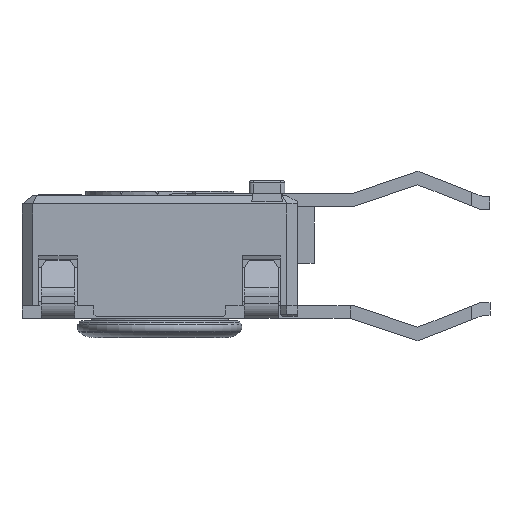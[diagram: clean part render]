
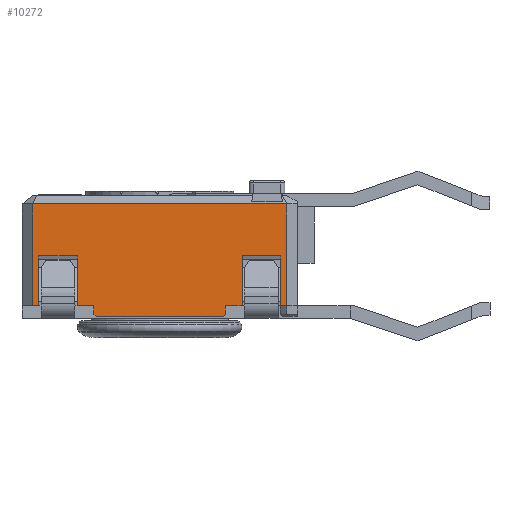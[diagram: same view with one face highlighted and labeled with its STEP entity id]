
A CAD part, left-side view. The second image highlights one B-rep face of the part: STEP entity #10272.
In plain terms, the highlighted planar face has unit normal (-1, 0, 0).
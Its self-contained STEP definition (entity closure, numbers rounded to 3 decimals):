
#1053=FACE_OUTER_BOUND('',#1607,.T.);
#1607=EDGE_LOOP('',(#8950,#8951,#8952,#8953,#8954,#8955,#8956,#8957,#8958,
#8959,#8960,#8961,#8962,#8963,#8964,#8965,#8966,#8967));
#2369=LINE('',#15667,#3563);
#2375=LINE('',#15680,#3569);
#2381=LINE('',#15691,#3575);
#2387=LINE('',#15702,#3581);
#2392=LINE('',#15712,#3586);
#2395=LINE('',#15718,#3589);
#2400=LINE('',#15727,#3594);
#2416=LINE('',#15757,#3610);
#2442=LINE('',#15817,#3636);
#2446=LINE('',#15822,#3640);
#2471=LINE('',#15862,#3665);
#2473=LINE('',#15867,#3667);
#2482=LINE('',#15885,#3676);
#2483=LINE('',#15887,#3677);
#2689=LINE('',#16393,#3883);
#2702=LINE('',#16417,#3896);
#2703=LINE('',#16419,#3897);
#2704=LINE('',#16421,#3898);
#3563=VECTOR('',#12607,10.);
#3569=VECTOR('',#12615,10.);
#3575=VECTOR('',#12621,10.);
#3581=VECTOR('',#12629,10.);
#3586=VECTOR('',#12636,10.);
#3589=VECTOR('',#12641,10.);
#3594=VECTOR('',#12648,10.);
#3610=VECTOR('',#12672,10.);
#3636=VECTOR('',#12726,10.);
#3640=VECTOR('',#12732,10.);
#3665=VECTOR('',#12767,10.);
#3667=VECTOR('',#12771,10.);
#3676=VECTOR('',#12792,10.);
#3677=VECTOR('',#12795,10.);
#3883=VECTOR('',#13269,10.);
#3896=VECTOR('',#13290,10.);
#3897=VECTOR('',#13293,10.);
#3898=VECTOR('',#13296,10.);
#4681=VERTEX_POINT('',#15664);
#4682=VERTEX_POINT('',#15666);
#4686=VERTEX_POINT('',#15676);
#4688=VERTEX_POINT('',#15679);
#4693=VERTEX_POINT('',#15689);
#4696=VERTEX_POINT('',#15699);
#4700=VERTEX_POINT('',#15709);
#4703=VERTEX_POINT('',#15716);
#4706=VERTEX_POINT('',#15725);
#4714=VERTEX_POINT('',#15744);
#4716=VERTEX_POINT('',#15756);
#4733=VERTEX_POINT('',#15809);
#4734=VERTEX_POINT('',#15813);
#4736=VERTEX_POINT('',#15816);
#4747=VERTEX_POINT('',#15864);
#4895=VERTEX_POINT('',#16390);
#4896=VERTEX_POINT('',#16392);
#4903=VERTEX_POINT('',#16415);
#5860=EDGE_CURVE('',#4682,#4681,#2369,.T.);
#5866=EDGE_CURVE('',#4688,#4686,#2375,.T.);
#5872=EDGE_CURVE('',#4681,#4693,#2381,.T.);
#5878=EDGE_CURVE('',#4686,#4696,#2387,.T.);
#5883=EDGE_CURVE('',#4696,#4700,#2392,.T.);
#5886=EDGE_CURVE('',#4700,#4703,#2395,.T.);
#5891=EDGE_CURVE('',#4703,#4706,#2400,.T.);
#5907=EDGE_CURVE('',#4716,#4682,#2416,.T.);
#5939=EDGE_CURVE('',#4736,#4734,#2442,.T.);
#5943=EDGE_CURVE('',#4734,#4716,#2446,.T.);
#5968=EDGE_CURVE('',#4736,#4733,#2471,.T.);
#5970=EDGE_CURVE('',#4693,#4747,#2473,.T.);
#5979=EDGE_CURVE('',#4706,#4714,#2482,.T.);
#5980=EDGE_CURVE('',#4733,#4714,#2483,.T.);
#6228=EDGE_CURVE('',#4895,#4896,#2689,.T.);
#6241=EDGE_CURVE('',#4903,#4747,#2702,.T.);
#6242=EDGE_CURVE('',#4903,#4896,#2703,.T.);
#6243=EDGE_CURVE('',#4895,#4688,#2704,.T.);
#8950=ORIENTED_EDGE('',*,*,#6241,.F.);
#8951=ORIENTED_EDGE('',*,*,#6242,.T.);
#8952=ORIENTED_EDGE('',*,*,#6228,.F.);
#8953=ORIENTED_EDGE('',*,*,#6243,.T.);
#8954=ORIENTED_EDGE('',*,*,#5866,.T.);
#8955=ORIENTED_EDGE('',*,*,#5878,.T.);
#8956=ORIENTED_EDGE('',*,*,#5883,.T.);
#8957=ORIENTED_EDGE('',*,*,#5886,.T.);
#8958=ORIENTED_EDGE('',*,*,#5891,.T.);
#8959=ORIENTED_EDGE('',*,*,#5979,.T.);
#8960=ORIENTED_EDGE('',*,*,#5980,.F.);
#8961=ORIENTED_EDGE('',*,*,#5968,.F.);
#8962=ORIENTED_EDGE('',*,*,#5939,.T.);
#8963=ORIENTED_EDGE('',*,*,#5943,.T.);
#8964=ORIENTED_EDGE('',*,*,#5907,.T.);
#8965=ORIENTED_EDGE('',*,*,#5860,.T.);
#8966=ORIENTED_EDGE('',*,*,#5872,.T.);
#8967=ORIENTED_EDGE('',*,*,#5970,.T.);
#9754=PLANE('',#11008);
#10272=ADVANCED_FACE('',(#1053),#9754,.T.);
#11008=AXIS2_PLACEMENT_3D('',#16602,#13498,#13499);
#12607=DIRECTION('',(0.,0.,-1.));
#12615=DIRECTION('',(0.,-1.,0.));
#12621=DIRECTION('',(0.,-1.,0.));
#12629=DIRECTION('',(0.,0.,1.));
#12636=DIRECTION('',(0.,-1.,0.));
#12641=DIRECTION('',(0.,0.,-1.));
#12648=DIRECTION('',(0.,-1.,0.));
#12672=DIRECTION('',(0.,-1.,0.));
#12726=DIRECTION('',(0.,-1.,0.));
#12732=DIRECTION('',(0.,0.,1.));
#12767=DIRECTION('',(0.,0.,1.));
#12771=DIRECTION('',(0.,0.,-1.));
#12792=DIRECTION('',(0.,0.,1.));
#12795=DIRECTION('',(0.,-1.,0.));
#13269=DIRECTION('',(0.,0.707,-0.707));
#13290=DIRECTION('',(0.,0.707,0.707));
#13293=DIRECTION('',(0.,-1.,0.));
#13296=DIRECTION('',(0.,0.,1.));
#13498=DIRECTION('center_axis',(-1.,0.,0.));
#13499=DIRECTION('ref_axis',(0.,0.,1.));
#15664=CARTESIAN_POINT('',(-14.26,-9.782,0.25));
#15666=CARTESIAN_POINT('',(-14.26,-9.782,1.425));
#15667=CARTESIAN_POINT('',(-14.26,-9.782,0.387));
#15676=CARTESIAN_POINT('',(-14.26,-13.682,0.25));
#15679=CARTESIAN_POINT('',(-14.26,-13.282,0.25));
#15680=CARTESIAN_POINT('',(-14.26,-13.244,0.25));
#15689=CARTESIAN_POINT('',(-14.26,-10.182,0.25));
#15691=CARTESIAN_POINT('',(-14.26,-13.244,0.25));
#15699=CARTESIAN_POINT('',(-14.26,-13.682,1.425));
#15702=CARTESIAN_POINT('',(-14.26,-13.682,0.387));
#15709=CARTESIAN_POINT('',(-14.26,-14.582,1.425));
#15712=CARTESIAN_POINT('',(-14.26,-14.657,1.425));
#15716=CARTESIAN_POINT('',(-14.26,-14.582,0.25));
#15718=CARTESIAN_POINT('',(-14.26,-14.582,0.387));
#15725=CARTESIAN_POINT('',(-14.26,-14.732,0.25));
#15727=CARTESIAN_POINT('',(-14.26,-13.244,0.25));
#15744=CARTESIAN_POINT('',(-14.26,-14.732,2.655));
#15756=CARTESIAN_POINT('',(-14.26,-8.882,1.425));
#15757=CARTESIAN_POINT('',(-14.26,-11.807,1.425));
#15809=CARTESIAN_POINT('',(-14.26,-8.732,2.655));
#15813=CARTESIAN_POINT('',(-14.26,-8.882,0.25));
#15816=CARTESIAN_POINT('',(-14.26,-8.732,0.25));
#15817=CARTESIAN_POINT('',(-14.26,-13.244,0.25));
#15822=CARTESIAN_POINT('',(-14.26,-8.882,0.387));
#15862=CARTESIAN_POINT('',(-14.26,-8.732,0.));
#15864=CARTESIAN_POINT('',(-14.26,-10.182,0.05));
#15867=CARTESIAN_POINT('',(-14.26,-10.182,0.));
#15885=CARTESIAN_POINT('',(-14.26,-14.732,0.));
#15887=CARTESIAN_POINT('',(-14.26,-13.232,2.655));
#16390=CARTESIAN_POINT('',(-14.26,-13.282,0.05));
#16392=CARTESIAN_POINT('',(-14.26,-13.232,0.));
#16393=CARTESIAN_POINT('',(-14.26,-13.619,0.388));
#16415=CARTESIAN_POINT('',(-14.26,-10.232,0.));
#16417=CARTESIAN_POINT('',(-14.26,-11.344,-1.113));
#16419=CARTESIAN_POINT('',(-14.26,-8.732,0.));
#16421=CARTESIAN_POINT('',(-14.26,-13.282,0.));
#16602=CARTESIAN_POINT('Origin',(-14.26,-14.732,0.));
